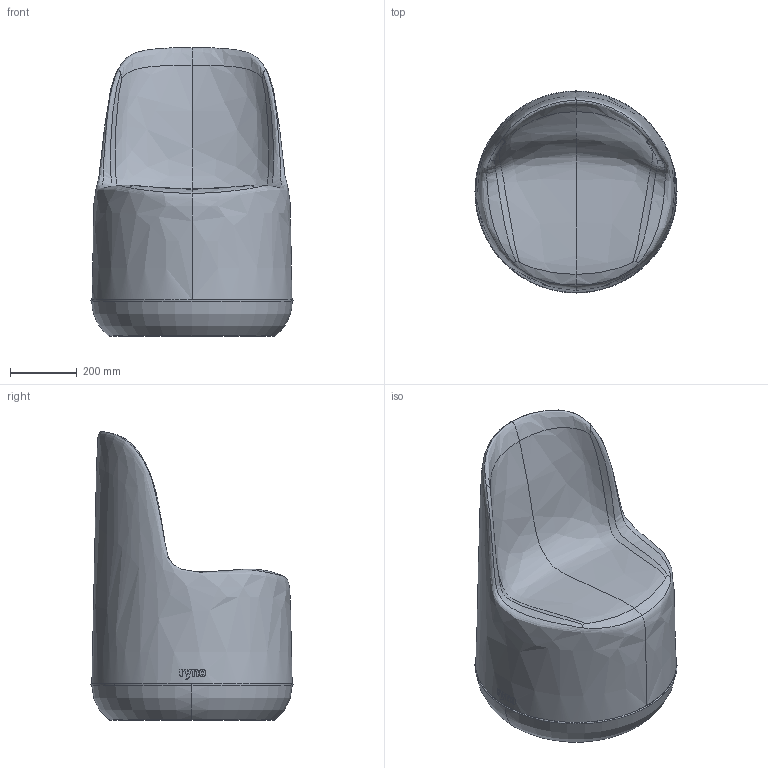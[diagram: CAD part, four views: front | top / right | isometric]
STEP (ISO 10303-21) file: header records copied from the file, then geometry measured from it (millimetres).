
FILE_DESCRIPTION (( 'STEP AP203' ), '1' );
FILE_NAME ('KINO CHAIR - SIMPLE.STEP', '2026-10-01T06:39:24', ( '' ), ( '' ), 'SwSTEP 2.0', 'SolidWorks 2026', '' );
FILE_SCHEMA (( 'CONFIG_CONTROL_DESIGN' ));
Length unit declared in the file: millimetre
Products named in the file (1): KINO CHAIR - SIMPLE
Bounding box: 605 x 604.99 x 865.32 mm (x, y, z)
Volume: 134366877.6 mm3; surface area: 1751128.3 mm2
Topology: 1 solids, 1 shells, 55 faces, 134 edges, 86 vertices
Faces by surface type: bspline 39, plane 8, torus 6, cylinder 2
Entity records: 6588 total; most frequent: CARTESIAN_POINT 5496, ORIENTED_EDGE 268, EDGE_CURVE 134, DIRECTION 99, B_SPLINE_CURVE_WITH_KNOTS 91, VERTEX_POINT 86, EDGE_LOOP 60, FACE_OUTER_BOUND 55
